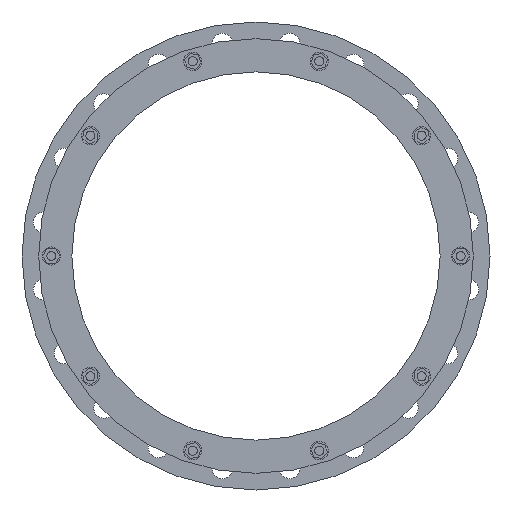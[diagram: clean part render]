
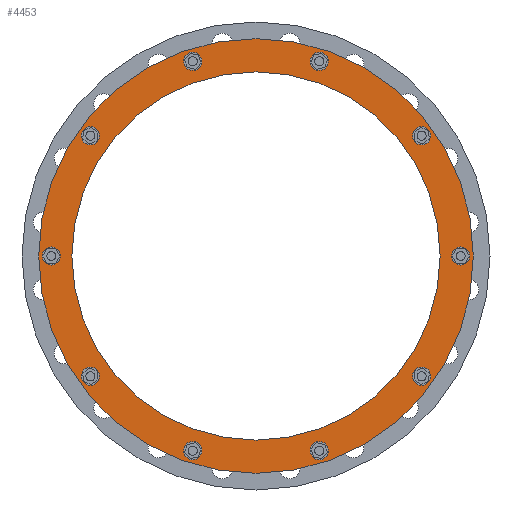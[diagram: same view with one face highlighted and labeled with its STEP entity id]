
A CAD part, front view. The second image highlights one B-rep face of the part: STEP entity #4453.
In plain terms, the highlighted planar face has unit normal (0, -1, 0).
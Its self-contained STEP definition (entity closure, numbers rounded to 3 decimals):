
#1092=CARTESIAN_POINT('',(0.,-94.452,0.));
#1093=DIRECTION('',(0.,-1.,0.));
#1094=DIRECTION('',(1.,0.,0.));
#1095=AXIS2_PLACEMENT_3D('',#1092,#1093,#1094);
#1097=CARTESIAN_POINT('',(0.,-94.452,0.));
#1098=DIRECTION('',(0.,1.,0.));
#1099=DIRECTION('',(1.,0.,0.));
#1100=AXIS2_PLACEMENT_3D('',#1097,#1098,#1099);
#1102=CARTESIAN_POINT('',(269.,-94.452,0.));
#1103=DIRECTION('',(0.,-1.,0.));
#1104=DIRECTION('',(0.,0.,-1.));
#1105=AXIS2_PLACEMENT_3D('',#1102,#1103,#1104);
#1107=CARTESIAN_POINT('',(269.,-94.452,0.));
#1108=DIRECTION('',(0.,-1.,0.));
#1109=DIRECTION('',(0.,0.,1.));
#1110=AXIS2_PLACEMENT_3D('',#1107,#1108,#1109);
#1112=CARTESIAN_POINT('',(217.626,-94.452,158.114));
#1113=DIRECTION('',(0.,-1.,0.));
#1114=DIRECTION('',(0.588,0.,-0.809));
#1115=AXIS2_PLACEMENT_3D('',#1112,#1113,#1114);
#1117=CARTESIAN_POINT('',(217.626,-94.452,158.114));
#1118=DIRECTION('',(0.,-1.,0.));
#1119=DIRECTION('',(-0.588,0.,0.809));
#1120=AXIS2_PLACEMENT_3D('',#1117,#1118,#1119);
#1122=CARTESIAN_POINT('',(83.126,-94.452,255.834));
#1123=DIRECTION('',(0.,-1.,0.));
#1124=DIRECTION('',(0.951,0.,-0.309));
#1125=AXIS2_PLACEMENT_3D('',#1122,#1123,#1124);
#1127=CARTESIAN_POINT('',(83.126,-94.452,255.834));
#1128=DIRECTION('',(0.,-1.,0.));
#1129=DIRECTION('',(-0.951,0.,0.309));
#1130=AXIS2_PLACEMENT_3D('',#1127,#1128,#1129);
#1132=CARTESIAN_POINT('',(-83.126,-94.452,255.834));
#1133=DIRECTION('',(0.,-1.,0.));
#1134=DIRECTION('',(0.951,0.,0.309));
#1135=AXIS2_PLACEMENT_3D('',#1132,#1133,#1134);
#1137=CARTESIAN_POINT('',(-83.126,-94.452,255.834));
#1138=DIRECTION('',(0.,-1.,0.));
#1139=DIRECTION('',(-0.951,0.,-0.309));
#1140=AXIS2_PLACEMENT_3D('',#1137,#1138,#1139);
#1142=CARTESIAN_POINT('',(-217.626,-94.452,158.114));
#1143=DIRECTION('',(0.,-1.,0.));
#1144=DIRECTION('',(0.588,0.,0.809));
#1145=AXIS2_PLACEMENT_3D('',#1142,#1143,#1144);
#1147=CARTESIAN_POINT('',(-217.626,-94.452,158.114));
#1148=DIRECTION('',(0.,-1.,0.));
#1149=DIRECTION('',(-0.588,0.,-0.809));
#1150=AXIS2_PLACEMENT_3D('',#1147,#1148,#1149);
#1152=CARTESIAN_POINT('',(-269.,-94.452,0.));
#1153=DIRECTION('',(0.,-1.,0.));
#1154=DIRECTION('',(0.,0.,1.));
#1155=AXIS2_PLACEMENT_3D('',#1152,#1153,#1154);
#1157=CARTESIAN_POINT('',(-269.,-94.452,0.));
#1158=DIRECTION('',(0.,-1.,0.));
#1159=DIRECTION('',(0.,0.,-1.));
#1160=AXIS2_PLACEMENT_3D('',#1157,#1158,#1159);
#1162=CARTESIAN_POINT('',(-217.626,-94.452,-158.114));
#1163=DIRECTION('',(0.,-1.,0.));
#1164=DIRECTION('',(-0.588,0.,0.809));
#1165=AXIS2_PLACEMENT_3D('',#1162,#1163,#1164);
#1167=CARTESIAN_POINT('',(-217.626,-94.452,-158.114));
#1168=DIRECTION('',(0.,-1.,0.));
#1169=DIRECTION('',(0.588,0.,-0.809));
#1170=AXIS2_PLACEMENT_3D('',#1167,#1168,#1169);
#1172=CARTESIAN_POINT('',(-83.126,-94.452,-255.834));
#1173=DIRECTION('',(0.,-1.,0.));
#1174=DIRECTION('',(-0.951,0.,0.309));
#1175=AXIS2_PLACEMENT_3D('',#1172,#1173,#1174);
#1177=CARTESIAN_POINT('',(-83.126,-94.452,-255.834));
#1178=DIRECTION('',(0.,-1.,0.));
#1179=DIRECTION('',(0.951,0.,-0.309));
#1180=AXIS2_PLACEMENT_3D('',#1177,#1178,#1179);
#1182=CARTESIAN_POINT('',(83.126,-94.452,-255.834));
#1183=DIRECTION('',(0.,-1.,0.));
#1184=DIRECTION('',(-0.951,0.,-0.309));
#1185=AXIS2_PLACEMENT_3D('',#1182,#1183,#1184);
#1187=CARTESIAN_POINT('',(83.126,-94.452,-255.834));
#1188=DIRECTION('',(0.,-1.,0.));
#1189=DIRECTION('',(0.951,0.,0.309));
#1190=AXIS2_PLACEMENT_3D('',#1187,#1188,#1189);
#1192=CARTESIAN_POINT('',(217.626,-94.452,-158.114));
#1193=DIRECTION('',(0.,-1.,0.));
#1194=DIRECTION('',(-0.588,0.,-0.809));
#1195=AXIS2_PLACEMENT_3D('',#1192,#1193,#1194);
#1197=CARTESIAN_POINT('',(217.626,-94.452,-158.114));
#1198=DIRECTION('',(0.,-1.,0.));
#1199=DIRECTION('',(0.588,0.,0.809));
#1200=AXIS2_PLACEMENT_3D('',#1197,#1198,#1199);
#1202=CARTESIAN_POINT('',(0.,-94.452,0.));
#1203=DIRECTION('',(0.,1.,0.));
#1204=DIRECTION('',(1.,0.,0.));
#1205=AXIS2_PLACEMENT_3D('',#1202,#1203,#1204);
#1215=CARTESIAN_POINT('',(0.,-94.452,0.));
#1216=DIRECTION('',(0.,-1.,0.));
#1217=DIRECTION('',(1.,0.,0.));
#1218=AXIS2_PLACEMENT_3D('',#1215,#1216,#1217);
#2951=CARTESIAN_POINT('',(285.6,-94.452,0.));
#2953=VERTEX_POINT('',#2951);
#2954=CARTESIAN_POINT('',(242.,-94.452,0.));
#2956=VERTEX_POINT('',#2954);
#2963=CARTESIAN_POINT('',(-285.6,-94.452,0.));
#2965=VERTEX_POINT('',#2963);
#2966=CARTESIAN_POINT('',(-242.,-94.452,0.));
#2968=VERTEX_POINT('',#2966);
#3005=CARTESIAN_POINT('',(269.,-94.452,-12.));
#3006=CARTESIAN_POINT('',(269.,-94.452,12.));
#3007=VERTEX_POINT('',#3005);
#3008=VERTEX_POINT('',#3006);
#3054=CARTESIAN_POINT('',(224.679,-94.452,148.406));
#3055=VERTEX_POINT('',#3054);
#3056=CARTESIAN_POINT('',(210.572,-94.452,167.822));
#3057=VERTEX_POINT('',#3056);
#3098=CARTESIAN_POINT('',(94.538,-94.452,252.126));
#3099=VERTEX_POINT('',#3098);
#3100=CARTESIAN_POINT('',(71.713,-94.452,259.542));
#3101=VERTEX_POINT('',#3100);
#3142=CARTESIAN_POINT('',(-71.713,-94.452,259.542));
#3143=VERTEX_POINT('',#3142);
#3144=CARTESIAN_POINT('',(-94.538,-94.452,252.126));
#3145=VERTEX_POINT('',#3144);
#3186=CARTESIAN_POINT('',(-210.572,-94.452,167.822));
#3187=VERTEX_POINT('',#3186);
#3188=CARTESIAN_POINT('',(-224.679,-94.452,148.406));
#3189=VERTEX_POINT('',#3188);
#3230=CARTESIAN_POINT('',(-269.,-94.452,12.));
#3231=VERTEX_POINT('',#3230);
#3232=CARTESIAN_POINT('',(-269.,-94.452,-12.));
#3233=VERTEX_POINT('',#3232);
#3274=CARTESIAN_POINT('',(-224.679,-94.452,-148.406));
#3275=VERTEX_POINT('',#3274);
#3276=CARTESIAN_POINT('',(-210.572,-94.452,-167.822));
#3277=VERTEX_POINT('',#3276);
#3318=CARTESIAN_POINT('',(-94.538,-94.452,-252.126));
#3319=VERTEX_POINT('',#3318);
#3320=CARTESIAN_POINT('',(-71.713,-94.452,-259.542));
#3321=VERTEX_POINT('',#3320);
#3533=CARTESIAN_POINT('',(71.713,-94.452,-259.542));
#3534=VERTEX_POINT('',#3533);
#3535=CARTESIAN_POINT('',(94.538,-94.452,-252.126));
#3536=VERTEX_POINT('',#3535);
#3577=CARTESIAN_POINT('',(210.572,-94.452,-167.822));
#3578=VERTEX_POINT('',#3577);
#3579=CARTESIAN_POINT('',(224.679,-94.452,-148.406));
#3580=VERTEX_POINT('',#3579);
#4378=CARTESIAN_POINT('',(0.,-94.452,0.));
#4379=DIRECTION('',(0.,1.,0.));
#4380=DIRECTION('',(-1.,0.,0.));
#4381=AXIS2_PLACEMENT_3D('',#4378,#4379,#4380);
#4382=PLANE('',#4381);
#4384=ORIENTED_EDGE('',*,*,#4383,.F.);
#4386=ORIENTED_EDGE('',*,*,#4385,.T.);
#4387=EDGE_LOOP('',(#4384,#4386));
#4388=FACE_OUTER_BOUND('',#4387,.F.);
#4390=ORIENTED_EDGE('',*,*,#4389,.F.);
#4392=ORIENTED_EDGE('',*,*,#4391,.T.);
#4393=EDGE_LOOP('',(#4390,#4392));
#4394=FACE_BOUND('',#4393,.F.);
#4396=ORIENTED_EDGE('',*,*,#4395,.T.);
#4398=ORIENTED_EDGE('',*,*,#4397,.T.);
#4399=EDGE_LOOP('',(#4396,#4398));
#4400=FACE_BOUND('',#4399,.F.);
#4402=ORIENTED_EDGE('',*,*,#4401,.T.);
#4404=ORIENTED_EDGE('',*,*,#4403,.T.);
#4405=EDGE_LOOP('',(#4402,#4404));
#4406=FACE_BOUND('',#4405,.F.);
#4408=ORIENTED_EDGE('',*,*,#4407,.T.);
#4410=ORIENTED_EDGE('',*,*,#4409,.T.);
#4411=EDGE_LOOP('',(#4408,#4410));
#4412=FACE_BOUND('',#4411,.F.);
#4414=ORIENTED_EDGE('',*,*,#4413,.T.);
#4416=ORIENTED_EDGE('',*,*,#4415,.T.);
#4417=EDGE_LOOP('',(#4414,#4416));
#4418=FACE_BOUND('',#4417,.F.);
#4420=ORIENTED_EDGE('',*,*,#4419,.T.);
#4422=ORIENTED_EDGE('',*,*,#4421,.T.);
#4423=EDGE_LOOP('',(#4420,#4422));
#4424=FACE_BOUND('',#4423,.F.);
#4426=ORIENTED_EDGE('',*,*,#4425,.T.);
#4428=ORIENTED_EDGE('',*,*,#4427,.T.);
#4429=EDGE_LOOP('',(#4426,#4428));
#4430=FACE_BOUND('',#4429,.F.);
#4432=ORIENTED_EDGE('',*,*,#4431,.T.);
#4434=ORIENTED_EDGE('',*,*,#4433,.T.);
#4435=EDGE_LOOP('',(#4432,#4434));
#4436=FACE_BOUND('',#4435,.F.);
#4438=ORIENTED_EDGE('',*,*,#4437,.T.);
#4440=ORIENTED_EDGE('',*,*,#4439,.T.);
#4441=EDGE_LOOP('',(#4438,#4440));
#4442=FACE_BOUND('',#4441,.F.);
#4443=ORIENTED_EDGE('',*,*,#4360,.T.);
#4444=ORIENTED_EDGE('',*,*,#4371,.T.);
#4445=EDGE_LOOP('',(#4443,#4444));
#4446=FACE_BOUND('',#4445,.F.);
#4448=ORIENTED_EDGE('',*,*,#4447,.T.);
#4450=ORIENTED_EDGE('',*,*,#4449,.T.);
#4451=EDGE_LOOP('',(#4448,#4450));
#4452=FACE_BOUND('',#4451,.F.);
#4453=ADVANCED_FACE('',(#4388,#4394,#4400,#4406,#4412,#4418,#4424,#4430,#4436,
#4442,#4446,#4452),#4382,.F.);
#1096=CIRCLE('',#1095,285.6);
#1101=CIRCLE('',#1100,285.6);
#1106=CIRCLE('',#1105,12.);
#1111=CIRCLE('',#1110,12.);
#1116=CIRCLE('',#1115,12.);
#1121=CIRCLE('',#1120,12.);
#1126=CIRCLE('',#1125,12.);
#1131=CIRCLE('',#1130,12.);
#1136=CIRCLE('',#1135,12.);
#1141=CIRCLE('',#1140,12.);
#1146=CIRCLE('',#1145,12.);
#1151=CIRCLE('',#1150,12.);
#1156=CIRCLE('',#1155,12.);
#1161=CIRCLE('',#1160,12.);
#1166=CIRCLE('',#1165,12.);
#1171=CIRCLE('',#1170,12.);
#1176=CIRCLE('',#1175,12.);
#1181=CIRCLE('',#1180,12.);
#1186=CIRCLE('',#1185,12.);
#1191=CIRCLE('',#1190,12.);
#1196=CIRCLE('',#1195,12.);
#1201=CIRCLE('',#1200,12.);
#1206=CIRCLE('',#1205,242.);
#1219=CIRCLE('',#1218,242.);
#4360=EDGE_CURVE('',#3534,#3536,#1186,.T.);
#4371=EDGE_CURVE('',#3536,#3534,#1191,.T.);
#4383=EDGE_CURVE('',#2953,#2965,#1096,.T.);
#4385=EDGE_CURVE('',#2953,#2965,#1101,.T.);
#4389=EDGE_CURVE('',#2956,#2968,#1206,.T.);
#4391=EDGE_CURVE('',#2956,#2968,#1219,.T.);
#4395=EDGE_CURVE('',#3007,#3008,#1106,.T.);
#4397=EDGE_CURVE('',#3008,#3007,#1111,.T.);
#4401=EDGE_CURVE('',#3055,#3057,#1116,.T.);
#4403=EDGE_CURVE('',#3057,#3055,#1121,.T.);
#4407=EDGE_CURVE('',#3099,#3101,#1126,.T.);
#4409=EDGE_CURVE('',#3101,#3099,#1131,.T.);
#4413=EDGE_CURVE('',#3143,#3145,#1136,.T.);
#4415=EDGE_CURVE('',#3145,#3143,#1141,.T.);
#4419=EDGE_CURVE('',#3187,#3189,#1146,.T.);
#4421=EDGE_CURVE('',#3189,#3187,#1151,.T.);
#4425=EDGE_CURVE('',#3231,#3233,#1156,.T.);
#4427=EDGE_CURVE('',#3233,#3231,#1161,.T.);
#4431=EDGE_CURVE('',#3275,#3277,#1166,.T.);
#4433=EDGE_CURVE('',#3277,#3275,#1171,.T.);
#4437=EDGE_CURVE('',#3319,#3321,#1176,.T.);
#4439=EDGE_CURVE('',#3321,#3319,#1181,.T.);
#4447=EDGE_CURVE('',#3578,#3580,#1196,.T.);
#4449=EDGE_CURVE('',#3580,#3578,#1201,.T.);
